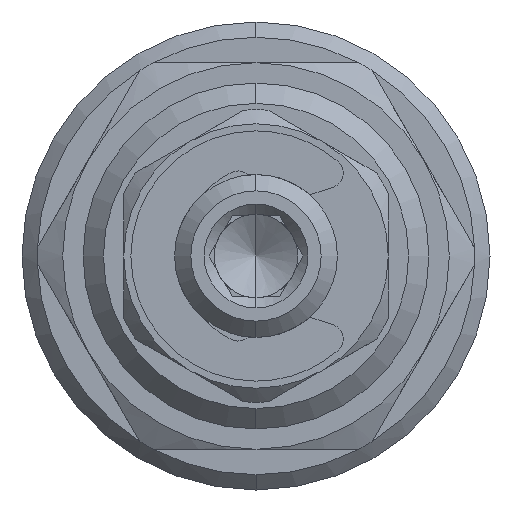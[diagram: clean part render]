
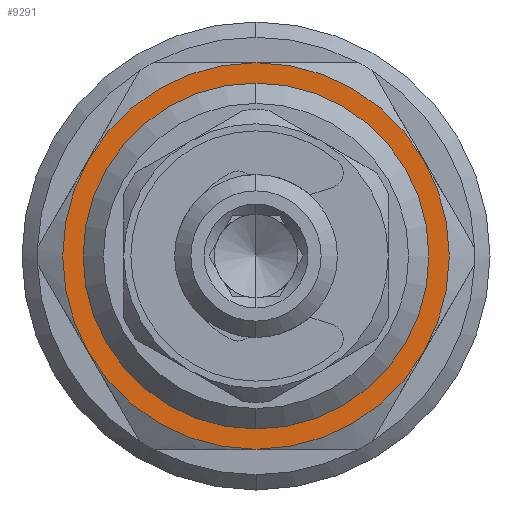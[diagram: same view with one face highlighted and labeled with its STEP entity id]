
A CAD part, left-side view. The second image highlights one B-rep face of the part: STEP entity #9291.
In plain terms, the highlighted planar face has unit normal (-1, 0, 0).
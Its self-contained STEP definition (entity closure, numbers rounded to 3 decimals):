
#29 = DIRECTION ( 'NONE',  ( 0., 0., -1. ) ) ;
#59 = VERTEX_POINT ( 'NONE', #4967 ) ;
#416 = AXIS2_PLACEMENT_3D ( 'NONE', #3377, #6800, #8606 ) ;
#1151 = CARTESIAN_POINT ( 'NONE',  ( 13., 0., -8.5 ) ) ;
#1228 = DIRECTION ( 'NONE',  ( -1., 0., 0. ) ) ;
#1466 = ORIENTED_EDGE ( 'NONE', *, *, #8284, .T. ) ;
#1468 = DIRECTION ( 'NONE',  ( 0., 0., 1. ) ) ;
#1529 = CARTESIAN_POINT ( 'NONE',  ( 13., 8.227, -4.75 ) ) ;
#1672 = CIRCLE ( 'NONE', #1865, 9.5 ) ;
#1682 = AXIS2_PLACEMENT_3D ( 'NONE', #8342, #6772, #8643 ) ;
#1841 = AXIS2_PLACEMENT_3D ( 'NONE', #6690, #4285, #10158 ) ;
#1865 = AXIS2_PLACEMENT_3D ( 'NONE', #3108, #2234, #5810 ) ;
#1981 = DIRECTION ( 'NONE',  ( -1., 0., 0. ) ) ;
#2071 = ORIENTED_EDGE ( 'NONE', *, *, #2877, .T. ) ;
#2198 = CIRCLE ( 'NONE', #5389, 9.5 ) ;
#2234 = DIRECTION ( 'NONE',  ( -1., 0., 0. ) ) ;
#2293 = CARTESIAN_POINT ( 'NONE',  ( 13., 0., 0. ) ) ;
#2468 = FACE_BOUND ( 'NONE', #7065, .T. ) ;
#2877 = EDGE_CURVE ( 'NONE', #6983, #7982, #4834, .T. ) ;
#3108 = CARTESIAN_POINT ( 'NONE',  ( 13., 0., 0. ) ) ;
#3166 = CIRCLE ( 'NONE', #8179, 9.5 ) ;
#3377 = CARTESIAN_POINT ( 'NONE',  ( 13., 0., 0. ) ) ;
#3636 = CARTESIAN_POINT ( 'NONE',  ( 13., 0., 0. ) ) ;
#3750 = EDGE_CURVE ( 'NONE', #7064, #6983, #8245, .T. ) ;
#3826 = CARTESIAN_POINT ( 'NONE',  ( 13., 0., 9.5 ) ) ;
#4022 = PLANE ( 'NONE',  #10059 ) ;
#4179 = DIRECTION ( 'NONE',  ( 1., 0., 0. ) ) ;
#4285 = DIRECTION ( 'NONE',  ( -1., 0., 0. ) ) ;
#4422 = EDGE_CURVE ( 'NONE', #59, #5438, #3166, .T. ) ;
#4468 = CARTESIAN_POINT ( 'NONE',  ( 13., -8.227, 4.75 ) ) ;
#4488 = ORIENTED_EDGE ( 'NONE', *, *, #9491, .T. ) ;
#4834 = CIRCLE ( 'NONE', #416, 9.5 ) ;
#4846 = CIRCLE ( 'NONE', #9659, 8.5 ) ;
#4903 = CARTESIAN_POINT ( 'NONE',  ( 13., 8.227, 4.75 ) ) ;
#4967 = CARTESIAN_POINT ( 'NONE',  ( 13., -8.227, -4.75 ) ) ;
#5215 = EDGE_LOOP ( 'NONE', ( #9248, #6190, #2071, #4488, #9583, #1466 ) ) ;
#5389 = AXIS2_PLACEMENT_3D ( 'NONE', #6237, #1228, #10419 ) ;
#5423 = DIRECTION ( 'NONE',  ( -1., 0., 0. ) ) ;
#5438 = VERTEX_POINT ( 'NONE', #4468 ) ;
#5810 = DIRECTION ( 'NONE',  ( 0., 0., 1. ) ) ;
#6190 = ORIENTED_EDGE ( 'NONE', *, *, #3750, .T. ) ;
#6237 = CARTESIAN_POINT ( 'NONE',  ( 13., 0., 0. ) ) ;
#6269 = CARTESIAN_POINT ( 'NONE',  ( 13., 0., 0. ) ) ;
#6420 = CARTESIAN_POINT ( 'NONE',  ( 13., 0., -9.5 ) ) ;
#6493 = CIRCLE ( 'NONE', #1682, 8.5 ) ;
#6500 = CIRCLE ( 'NONE', #7363, 9.5 ) ;
#6690 = CARTESIAN_POINT ( 'NONE',  ( 13., 0., 0. ) ) ;
#6772 = DIRECTION ( 'NONE',  ( -1., 0., 0. ) ) ;
#6800 = DIRECTION ( 'NONE',  ( -1., 0., 0. ) ) ;
#6983 = VERTEX_POINT ( 'NONE', #1529 ) ;
#7064 = VERTEX_POINT ( 'NONE', #4903 ) ;
#7065 = EDGE_LOOP ( 'NONE', ( #9298, #8754 ) ) ;
#7363 = AXIS2_PLACEMENT_3D ( 'NONE', #6269, #5423, #8861 ) ;
#7448 = DIRECTION ( 'NONE',  ( -1., 0., 0. ) ) ;
#7533 = FACE_OUTER_BOUND ( 'NONE', #5215, .T. ) ;
#7982 = VERTEX_POINT ( 'NONE', #6420 ) ;
#8069 = DIRECTION ( 'NONE',  ( 0., 0., 1. ) ) ;
#8072 = EDGE_CURVE ( 'NONE', #9560, #9317, #4846, .T. ) ;
#8179 = AXIS2_PLACEMENT_3D ( 'NONE', #3636, #1981, #8069 ) ;
#8245 = CIRCLE ( 'NONE', #1841, 9.5 ) ;
#8284 = EDGE_CURVE ( 'NONE', #5438, #9993, #2198, .T. ) ;
#8342 = CARTESIAN_POINT ( 'NONE',  ( 13., 0., 0. ) ) ;
#8488 = CARTESIAN_POINT ( 'NONE',  ( 13., 0., 8.5 ) ) ;
#8606 = DIRECTION ( 'NONE',  ( 0., 0., 1. ) ) ;
#8643 = DIRECTION ( 'NONE',  ( 0., 0., 1. ) ) ;
#8754 = ORIENTED_EDGE ( 'NONE', *, *, #9180, .F. ) ;
#8861 = DIRECTION ( 'NONE',  ( 0., 0., 1. ) ) ;
#9099 = EDGE_CURVE ( 'NONE', #9993, #7064, #1672, .T. ) ;
#9180 = EDGE_CURVE ( 'NONE', #9317, #9560, #6493, .T. ) ;
#9248 = ORIENTED_EDGE ( 'NONE', *, *, #9099, .T. ) ;
#9291 = ADVANCED_FACE ( 'NONE', ( #2468, #7533 ), #4022, .F. ) ;
#9298 = ORIENTED_EDGE ( 'NONE', *, *, #8072, .F. ) ;
#9317 = VERTEX_POINT ( 'NONE', #1151 ) ;
#9330 = CARTESIAN_POINT ( 'NONE',  ( 13., 10.75, 0. ) ) ;
#9491 = EDGE_CURVE ( 'NONE', #7982, #59, #6500, .T. ) ;
#9560 = VERTEX_POINT ( 'NONE', #8488 ) ;
#9583 = ORIENTED_EDGE ( 'NONE', *, *, #4422, .T. ) ;
#9659 = AXIS2_PLACEMENT_3D ( 'NONE', #2293, #7448, #1468 ) ;
#9993 = VERTEX_POINT ( 'NONE', #3826 ) ;
#10059 = AXIS2_PLACEMENT_3D ( 'NONE', #9330, #4179, #29 ) ;
#10158 = DIRECTION ( 'NONE',  ( 0., 0., 1. ) ) ;
#10419 = DIRECTION ( 'NONE',  ( 0., 0., 1. ) ) ;
